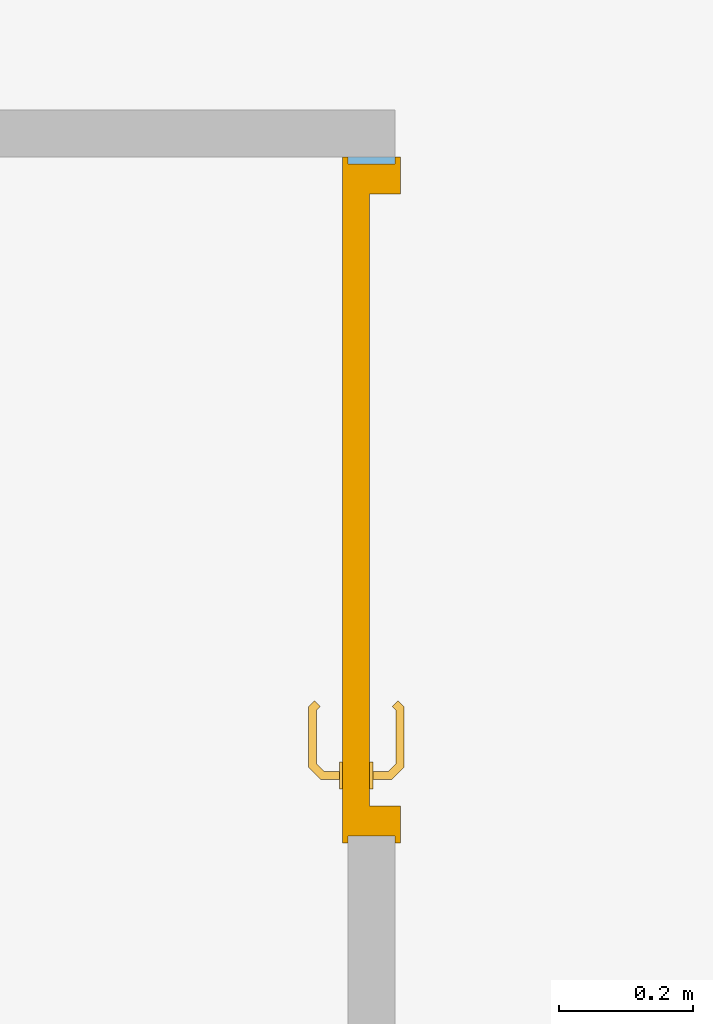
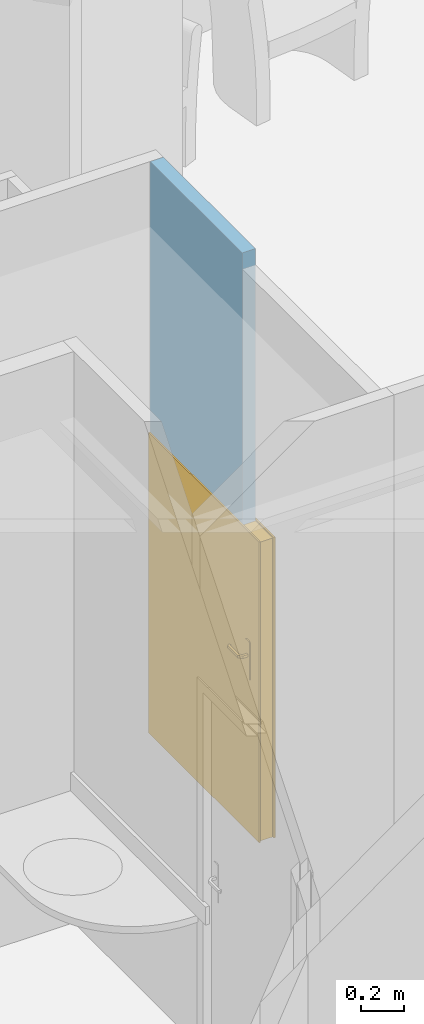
# One storey, part 87 of 137: 1 door, 1 opening, plus 1 element that does not belong to this part.
"""IFC2X3 building model written with IfcOpenShell, lengths in centimetres."""

from ifc_helpers import new_model, entity, si_unit, converted_unit, derived_unit, direction, frame, frame_2d, origin, place, context, subcontext, project, spatial, polyline, rectangle, extrude, clip, bounded_halfspace, faceted_brep, source, transform, mapped, material, material_list, layer, layer_set, layer_usage, type_object, type_shapes, element, fill, save


model = new_model("IFC2X3")

# Units and contexts
model_context = context("Model", 3, precision=0.001, world=origin(), true_north=direction((6.12303176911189e-17, 1.0)))
body_context = subcontext(model_context, "Body", "Model", "MODEL_VIEW")
ifc_project = project(units=[si_unit("LENGTHUNIT", "METRE", prefix="CENTI"), si_unit("AREAUNIT", "SQUARE_METRE"), si_unit("VOLUMEUNIT", "CUBIC_METRE"), converted_unit("PLANEANGLEUNIT", "DEGREE", entity("IfcRatioMeasure", 0.0174532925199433), si_unit("PLANEANGLEUNIT", "RADIAN"), dimensions=[0, 0, 0, 0, 0, 0, 0]), si_unit("MASSUNIT", "GRAM", prefix="KILO"), si_unit("TIMEUNIT", "SECOND"), si_unit("FREQUENCYUNIT", "HERTZ"), si_unit("THERMODYNAMICTEMPERATUREUNIT", "DEGREE_CELSIUS"), derived_unit("THERMALTRANSMITTANCEUNIT", [(si_unit("MASSUNIT", "GRAM", prefix="KILO"), 1), (si_unit("THERMODYNAMICTEMPERATUREUNIT", "KELVIN"), -1), (si_unit("TIMEUNIT", "SECOND"), -3)]), derived_unit("VOLUMETRICFLOWRATEUNIT", [(si_unit("LENGTHUNIT", "METRE"), 3), (si_unit("TIMEUNIT", "SECOND"), -1)]), si_unit("ELECTRICCURRENTUNIT", "AMPERE"), si_unit("ELECTRICVOLTAGEUNIT", "VOLT"), si_unit("POWERUNIT", "WATT"), si_unit("FORCEUNIT", "NEWTON", prefix="KILO"), si_unit("ILLUMINANCEUNIT", "LUX"), si_unit("LUMINOUSFLUXUNIT", "LUMEN"), si_unit("LUMINOUSINTENSITYUNIT", "CANDELA"), derived_unit("USERDEFINED", [(si_unit("MASSUNIT", "GRAM", prefix="KILO"), -1), (si_unit("LENGTHUNIT", "METRE"), -2), (si_unit("TIMEUNIT", "SECOND"), 3), (si_unit("LUMINOUSFLUXUNIT", "LUMEN"), 1)]), derived_unit("LINEARVELOCITYUNIT", [(si_unit("LENGTHUNIT", "METRE"), 1), (si_unit("TIMEUNIT", "SECOND"), -1)]), si_unit("PRESSUREUNIT", "PASCAL"), derived_unit("USERDEFINED", [(si_unit("LENGTHUNIT", "METRE"), -2), (si_unit("MASSUNIT", "GRAM", prefix="KILO"), 1), (si_unit("TIMEUNIT", "SECOND"), -2)])], contexts=[model_context])

# Site, building, storey
site_placement = place(None, frame((8.62739174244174, -249.285249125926, 0.0)))
site = spatial("IfcSite", under=ifc_project, at=site_placement, Name="Default", CompositionType="ELEMENT")
building_placement = place(site_placement, origin())
building = spatial("IfcBuilding", under=site, at=building_placement, CompositionType="ELEMENT")
storey_placement = place(building_placement, origin())
storey = spatial("IfcBuildingStorey", under=building, at=storey_placement, Name="RDC", CompositionType="ELEMENT", Elevation=-8.82465566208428e-11)

# Wall, opening, door
ifc_material_1 = material(Name="Plâtre EXISTANT")
ifc_layer = layer(ifc_material_1, 7.0)
ifc_layer_set = layer_set([ifc_layer], Name="Mur de base:PLA EXISTANT 7")
ifc_layer_usage = layer_usage(ifc_layer_set, "AXIS2", "NEGATIVE", 3.5)
wall_type = type_object("IfcWallType", Name="Mur de base:PLA EXISTANT 7", PredefinedType="STANDARD", material=ifc_layer_set)
wall_placement = place(storey_placement, frame((2662.40482780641, 771.0, 0.0), z_axis=(0.0, 0.0, 1.0), x_axis=(0.0, -1.0, 0.0)))
wall = element("IfcWallStandardCase", 1, at=wall_placement, inside=storey, type_object=wall_type, material=ifc_layer_usage, Name="Mur de base:PLA EXISTANT 7", ObjectType="Mur de base:PLA EXISTANT 7", context=body_context, shape_type="Clipping", body=[
    clip(extrude(rectangle(XDim=85.0197919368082, YDim=7.00000000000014, at=frame_2d((42.5098959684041, 0.0), x_axis=(-1.0, 0.0))), origin(), (0.0, 0.0, 1.0), 322.000000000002), bounded_halfspace(frame((0.0, -3.50000000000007, 322.0), z_axis=(0.0, 0.0, -1.0), x_axis=(-1.0, 0.0, 0.0)), True, frame((0.0, -3.50000000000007, 322.0)), polyline([(0.0, 0.0), (85.0197919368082, 0.0), (85.0197919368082, 7.0), (0.0, 7.0), (0.0, 0.0)]))),
])
opening_placement = place(wall_placement, frame((101.0, 3.5, 0.0)))
opening = element("IfcOpeningElement", 2, at=opening_placement, cuts=wall, Name="Simple(R)_bois_mu:93 x 165 cm:1", ObjectType="Opening", context=body_context, shape_type="SweptSolid", body=[
    extrude(rectangle(XDim=168.5, YDim=99.9999999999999, at=frame_2d((84.25, 50.0), x_axis=(1.0, 0.0))), frame((0.0, 0.0, 0.0), z_axis=(0.0, -1.0, 0.0), x_axis=(0.0, 0.0, 1.0)), (0.0, 0.0, 1.0), 7.0),
])
ifc_material_2 = material(Name="Porte - Poignée")
ifc_material_3 = material(Name="Porte - Cadre")
ifc_material_4 = material(Name="Porte - Panneau")
ifc_material_list_1 = material_list([ifc_material_2, ifc_material_3, ifc_material_4])
ifc_material_list_2 = material_list([ifc_material_2, ifc_material_3, ifc_material_4])
door_style = type_object("IfcDoorStyle", Name="93 x 165 cm", ConstructionType="NOTDEFINED", OperationType="SINGLE_SWING_LEFT", ParameterTakesPrecedence=False, Sizeable=False, material=ifc_material_list_2)
shared_shape = source(origin(), body_context, "Body", "Brep", [
    faceted_brep([(92.2025298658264, 3.69999999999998, 100.778044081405), (91.7974701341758, 3.69999999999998, 100.778044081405), (91.3999999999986, 3.69999999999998, 100.699999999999), (91.4000000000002, 3.69999999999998, 99.3000000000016), (91.7974701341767, 3.69999999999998, 99.2219559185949), (92.2025298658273, 3.69999999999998, 99.2219559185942), (92.6000000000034, 3.69999999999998, 99.2999999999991), (92.600000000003, 3.69999999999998, 100.699999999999), (91.3999999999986, 5.94852045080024, 100.699999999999), (91.3999999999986, 5.94852045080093, 99.3000000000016), (91.7974701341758, 6.1131579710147, 100.778044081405), (92.2025298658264, 6.2809392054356, 100.778044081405), (90.5838906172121, 7.89957845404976, 100.778044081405), (90.4161093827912, 7.49451872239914, 100.778044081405), (82.0793122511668, 7.49451872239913, 100.778044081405), (81.911531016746, 7.89957845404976, 100.778044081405), (81.1451046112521, 7.13315204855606, 100.778044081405), (81.4315250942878, 6.84673156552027, 100.778044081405), (92.600000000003, 6.44557672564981, 100.699999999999), (92.6000000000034, 6.44557672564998, 99.2999999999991), (92.2025298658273, 6.28093920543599, 99.2219559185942), (91.7974701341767, 6.11315797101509, 99.2219559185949), (90.4161093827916, 7.49451872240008, 99.2219559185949), (90.5838906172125, 7.8995784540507, 99.2219559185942), (81.9115310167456, 7.8995784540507, 99.2219559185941), (82.0793122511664, 7.49451872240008, 99.2219559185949), (81.4315250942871, 6.84673156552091, 99.2219559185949), (81.1451046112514, 7.13315204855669, 99.2219559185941), (90.2514718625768, 7.09704858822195, 100.699999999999), (90.2514718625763, 7.09704858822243, 99.3000000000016), (90.7485281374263, 8.29704858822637, 100.699999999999), (90.7485281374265, 8.29704858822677, 99.2999999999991), (86.247710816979, 7.09704858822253, 100.699999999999), (82.2439497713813, 7.09704858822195, 100.699999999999), (82.2439497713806, 7.09704858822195, 99.3000000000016), (86.247710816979, 7.09704858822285, 99.3000000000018), (86.2477108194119, 7.71249275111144, 100.787811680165), (85.7399422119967, 8.29704858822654, 100.699999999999), (81.7468934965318, 8.29704858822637, 100.699999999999), (86.7554791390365, 8.29704858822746, 99.2999999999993), (81.7468934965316, 8.29704858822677, 99.2999999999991), (86.2477107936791, 7.71249274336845, 99.2121883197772), (80.8640507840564, 7.41420587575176, 100.699999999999), (80.8640507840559, 7.41420587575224, 99.2999999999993), (81.7125789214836, 6.5656777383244, 99.3000000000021), (81.7125789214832, 6.56567773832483, 100.699999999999)], [[[0, 1, 2, 3, 4, 5, 6, 7]], [[8, 9, 3, 2]], [[1, 10, 8, 2]], [[1, 0, 11, 12, 13, 10]], [[14, 15, 16, 17]], [[7, 18, 11, 0]], [[18, 7, 6, 19]], [[6, 5, 20, 19]], [[5, 4, 21, 22, 23, 20]], [[24, 25, 26, 27]], [[4, 3, 9, 21]], [[28, 29, 9, 8]], [[8, 10, 13, 28]], [[18, 30, 12, 11]], [[31, 30, 18, 19]], [[19, 20, 23, 31]], [[21, 9, 29, 22]], [[29, 28, 32, 33, 34, 35]], [[36, 32, 13]], [[37, 38, 15]], [[37, 12, 30]], [[36, 12, 37]], [[14, 32, 36]], [[36, 15, 14]], [[28, 13, 32]], [[32, 14, 33]], [[12, 36, 13]], [[15, 36, 37]], [[30, 31, 39, 40, 38, 37]], [[23, 41, 39]], [[24, 39, 41]], [[39, 31, 23]], [[39, 24, 40]], [[22, 35, 41]], [[41, 23, 22]], [[41, 35, 25]], [[35, 22, 29]], [[34, 25, 35]], [[24, 41, 25]], [[17, 16, 42, 43, 27, 26, 44, 45]], [[45, 44, 34, 33]], [[33, 14, 17, 45]], [[15, 38, 42, 16]], [[43, 42, 38, 40]], [[24, 27, 43, 40]], [[34, 44, 26, 25]]]),
    faceted_brep([(91.7974701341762, -1.30000000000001, 100.778044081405), (92.2025298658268, -1.30000000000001, 100.778044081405), (92.6000000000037, -1.30000000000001, 100.699999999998), (92.6000000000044, -1.30000000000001, 99.2999999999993), (92.2025298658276, -1.30000000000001, 99.2219559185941), (91.797470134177, -1.30000000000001, 99.2219559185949), (91.3999999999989, -1.30000000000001, 99.3000000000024), (91.3999999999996, -1.30000000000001, 100.699999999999), (92.2025298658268, -3.90045754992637, 100.778044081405), (92.6000000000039, -4.06509507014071, 100.699999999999), (91.7974701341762, -3.73267631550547, 100.778044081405), (90.4298602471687, -5.10028620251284, 100.778044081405), (90.5976414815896, -5.50534593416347, 100.778044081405), (81.9142453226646, -5.50534593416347, 100.778044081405), (82.0820265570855, -5.10028620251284, 100.778044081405), (81.4342394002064, -4.4524990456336, 100.778044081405), (81.1478189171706, -4.73891952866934, 100.778044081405), (91.3999999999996, -3.56803879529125, 100.699999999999), (91.3999999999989, -3.56803879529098, 99.3000000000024), (91.797470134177, -3.7326763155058, 99.2219559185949), (92.2025298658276, -3.9004575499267, 99.2219559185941), (90.5976414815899, -5.50534593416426, 99.2219559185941), (90.429860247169, -5.10028620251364, 99.2219559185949), (82.0820265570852, -5.10028620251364, 99.2219559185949), (81.9142453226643, -5.50534593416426, 99.2219559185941), (81.14781891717, -4.73891952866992, 99.2219559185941), (81.4342394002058, -4.45249904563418, 99.2219559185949), (92.6000000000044, -4.06509507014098, 99.2999999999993), (90.762279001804, -5.90281606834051, 100.699999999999), (90.2652227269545, -4.70281606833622, 100.699999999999), (90.2652227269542, -4.70281606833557, 99.3000000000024), (90.7622790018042, -5.90281606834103, 99.2999999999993), (86.2559433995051, -5.31828027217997, 100.787811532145), (86.769230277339, -5.90281606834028, 100.699999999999), (81.7496078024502, -5.90281606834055, 100.699999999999), (86.255943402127, -4.70281606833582, 100.699999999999), (82.2466640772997, -4.70281606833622, 100.699999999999), (86.2559436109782, -4.70281606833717, 99.3000000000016), (82.2466640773, -4.70281606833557, 99.3000000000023), (86.2559434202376, -5.31828027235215, 99.2121884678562), (85.7426572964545, -5.90281606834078, 99.2999999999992), (81.74960780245, -5.90281606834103, 99.2999999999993), (81.7152932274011, -4.17144521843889, 99.3000000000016), (80.8667650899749, -5.01997335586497, 99.2999999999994), (80.8667650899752, -5.01997335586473, 100.699999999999), (81.7152932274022, -4.17144521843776, 100.699999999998)], [[[0, 1, 2, 3, 4, 5, 6, 7]], [[2, 1, 8, 9]], [[1, 0, 10, 11, 12, 8]], [[13, 14, 15, 16]], [[0, 7, 17, 10]], [[18, 17, 7, 6]], [[5, 19, 18, 6]], [[5, 4, 20, 21, 22, 19]], [[23, 24, 25, 26]], [[3, 27, 20, 4]], [[9, 27, 3, 2]], [[9, 8, 12, 28]], [[10, 17, 29, 11]], [[30, 29, 17, 18]], [[18, 19, 22, 30]], [[20, 27, 31, 21]], [[28, 31, 27, 9]], [[12, 32, 33]], [[13, 33, 32]], [[33, 28, 12]], [[33, 13, 34]], [[11, 35, 32]], [[32, 12, 11]], [[32, 35, 14]], [[35, 11, 29]], [[36, 14, 35]], [[13, 32, 14]], [[29, 30, 37, 38, 36, 35]], [[39, 37, 22]], [[40, 41, 24]], [[40, 21, 31]], [[39, 21, 40]], [[23, 37, 39]], [[39, 24, 23]], [[30, 22, 37]], [[37, 23, 38]], [[21, 39, 22]], [[24, 39, 40]], [[31, 28, 33, 34, 41, 40]], [[42, 26, 25, 43, 44, 16, 15, 45]], [[13, 16, 44, 34]], [[36, 45, 15, 14]], [[42, 45, 36, 38]], [[38, 23, 26, 42]], [[24, 41, 43, 25]], [[44, 43, 41, 34]]]),
    faceted_brep([(92.0, 3.19999999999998, 86.4641016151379), (93.0352761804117, 3.19999999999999, 86.6003983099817), (94.0, 3.19999999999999, 87.0), (94.0, 3.19999999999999, 108.0), (93.0352761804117, 3.19999999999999, 108.399601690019), (92.0, 3.19999999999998, 108.535898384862), (90.9647238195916, 3.19999999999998, 108.399601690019), (90.0, 3.19999999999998, 108.0), (90.0, 3.19999999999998, 87.0), (90.9647238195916, 3.19999999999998, 86.6003983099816), (92.0, 3.69999999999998, 108.535898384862), (93.0352761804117, 3.69999999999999, 108.399601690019), (94.0, 3.69999999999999, 108.0), (94.0, 3.69999999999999, 87.0), (93.0352761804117, 3.69999999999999, 86.6003983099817), (92.0, 3.69999999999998, 86.4641016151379), (90.9647238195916, 3.69999999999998, 86.6003983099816), (90.0, 3.69999999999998, 87.0), (90.0, 3.69999999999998, 108.0), (90.9647238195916, 3.69999999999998, 108.399601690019)], [[[0, 1, 2, 3, 4, 5, 6, 7, 8, 9]], [[10, 11, 12, 13, 14, 15, 16, 17, 18, 19]], [[6, 19, 18, 7]], [[5, 10, 19, 6]], [[4, 11, 10, 5]], [[4, 3, 12, 11]], [[12, 3, 2, 13]], [[1, 14, 13, 2]], [[0, 15, 14, 1]], [[9, 16, 15, 0]], [[9, 8, 17, 16]], [[17, 8, 7, 18]]]),
    faceted_brep([(92.0, -1.30000000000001, 86.4641016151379), (93.0352761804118, -1.30000000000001, 86.6003983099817), (94.0, -1.30000000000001, 87.0), (94.0, -1.30000000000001, 108.0), (93.0352761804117, -1.30000000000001, 108.399601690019), (92.0, -1.30000000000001, 108.535898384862), (90.9647238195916, -1.30000000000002, 108.399601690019), (90.0, -1.30000000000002, 108.0), (90.0, -1.30000000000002, 87.0), (90.9647238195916, -1.30000000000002, 86.6003983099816), (94.0, -0.800000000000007, 108.0), (94.0, -0.800000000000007, 87.0), (93.0352761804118, -0.80000000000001, 86.6003983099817), (92.0, -0.800000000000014, 86.4641016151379), (90.9647238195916, -0.800000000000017, 86.6003983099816), (90.0, -0.800000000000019, 87.0), (90.0, -0.800000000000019, 108.0), (90.9647238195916, -0.800000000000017, 108.399601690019), (92.0, -0.800000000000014, 108.535898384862), (93.0352761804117, -0.80000000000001, 108.399601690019)], [[[0, 1, 2, 3, 4, 5, 6, 7, 8, 9]], [[10, 11, 12, 13, 14, 15, 16, 17, 18, 19]], [[1, 12, 11, 2]], [[0, 13, 12, 1]], [[9, 14, 13, 0]], [[9, 8, 15, 14]], [[15, 8, 7, 16]], [[6, 17, 16, 7]], [[5, 18, 17, 6]], [[4, 19, 18, 5]], [[4, 3, 10, 19]], [[10, 3, 2, 11]]]),
    faceted_brep([(101.0, 0.0, 0.0), (102.0, 0.0, 0.0), (102.0, -0.799999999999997, 0.0), (97.5000000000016, -0.799999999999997, 0.0), (97.5000000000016, 3.2, 0.0), (96.5000000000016, 3.2, 0.0), (96.5000000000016, 7.80000000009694, 0.0), (102.0, 7.80000000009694, 0.0), (102.0, 7.0, 0.0), (101.0, 7.0, 0.0), (101.0, 7.0, 168.5), (101.0, 0.0, 168.5), (102.0, 7.0, 169.5), (0.0, 7.0, 169.5), (0.0, 7.0, 0.0), (1.0, 7.0, 0.0), (1.0, 7.0, 168.5), (102.0, 7.80000000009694, 169.5), (96.5000000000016, 7.80000000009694, 164.0), (5.50000000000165, 7.80000000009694, 164.0), (5.50000000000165, 7.80000000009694, 0.0), (0.0, 7.80000000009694, 0.0), (0.0, 7.80000000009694, 169.5), (96.5000000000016, 3.2, 164.0), (97.5000000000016, 3.2, 165.0), (4.50000000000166, 3.2, 165.0), (4.50000000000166, 3.2, 0.0), (5.50000000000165, 3.2, 0.0), (5.50000000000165, 3.2, 164.0), (97.5000000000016, -0.799999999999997, 165.0), (102.0, -0.799999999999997, 169.5), (0.0, -0.799999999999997, 169.5), (0.0, -0.799999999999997, 0.0), (4.50000000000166, -0.799999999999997, 0.0), (4.50000000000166, -0.799999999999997, 165.0), (102.0, 0.0, 169.5), (1.0, 0.0, 168.5), (1.0, 0.0, 0.0), (0.0, 0.0, 0.0), (0.0, 0.0, 169.5)], [[[0, 1, 2, 3, 4, 5, 6, 7, 8, 9]], [[9, 10, 11, 0]], [[8, 12, 13, 14, 15, 16, 10, 9]], [[7, 17, 12, 8]], [[6, 18, 19, 20, 21, 22, 17, 7]], [[5, 23, 18, 6]], [[4, 24, 25, 26, 27, 28, 23, 5]], [[3, 29, 24, 4]], [[2, 30, 31, 32, 33, 34, 29, 3]], [[1, 35, 30, 2]], [[0, 11, 36, 37, 38, 39, 35, 1]], [[16, 15, 37, 36]], [[37, 15, 14, 21, 20, 27, 26, 33, 32, 38]], [[22, 21, 14, 13]], [[28, 27, 20, 19]], [[34, 33, 26, 25]], [[39, 38, 32, 31]], [[10, 16, 36, 11]], [[17, 22, 13, 12]], [[23, 28, 19, 18]], [[29, 34, 25, 24]], [[35, 39, 31, 30]]]),
    faceted_brep([(97.5000000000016, -0.799999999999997, 165.0), (4.50000000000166, -0.799999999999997, 165.0), (4.50000000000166, -0.799999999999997, 0.0), (97.5000000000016, -0.799999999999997, 0.0), (97.5000000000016, 3.2, 165.0), (97.5000000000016, 3.2, 0.0), (4.50000000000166, 3.2, 0.0), (4.50000000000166, 3.2, 165.0)], [[[0, 1, 2, 3]], [[4, 5, 6, 7]], [[3, 5, 4, 0]], [[2, 6, 5, 3]], [[1, 7, 6, 2]], [[0, 4, 7, 1]]]),
])
type_shapes(door_style, [shared_shape])
door_placement = place(opening_placement, frame((-101.0, -7.0, 0.0)))
door = element("IfcDoor", 3, at=door_placement, inside=storey, type_object=door_style, material=ifc_material_list_1, Name="Simple(R)_bois_mu:93 x 165 cm", ObjectType="93 x 165 cm", OverallHeight=168.5, OverallWidth=100.0, context=body_context, shape_type="MappedRepresentation", body=[
    mapped(shared_shape, transform((0.0, 0.0, 0.0), scale=1.0)),
])
fill(opening, door)

save(model, "model.ifc")
